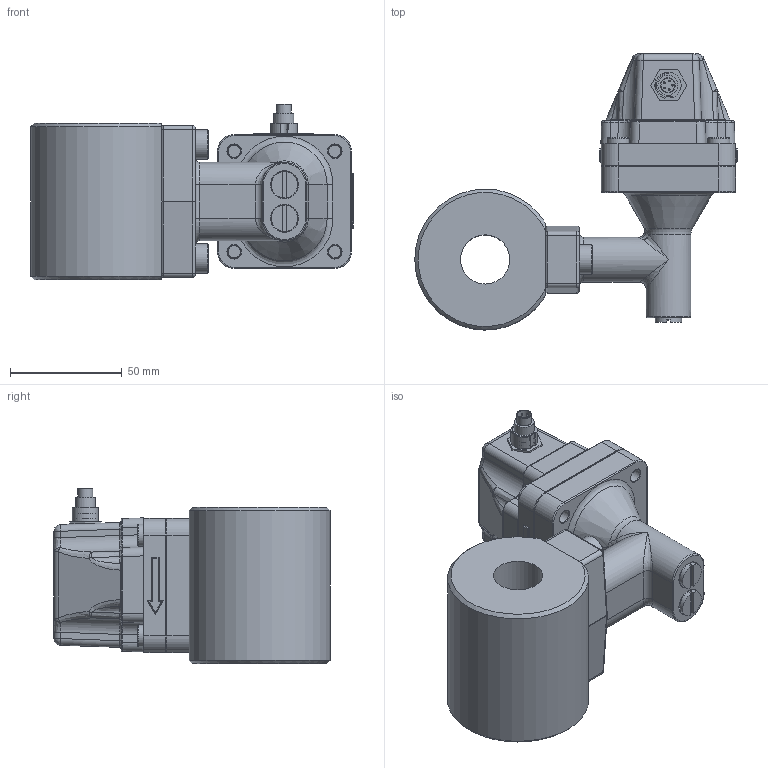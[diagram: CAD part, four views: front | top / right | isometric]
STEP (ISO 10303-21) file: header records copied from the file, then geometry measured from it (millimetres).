
FILE_DESCRIPTION(/* description */ ('Alibre Inc.'),/* implementation_level */ '2;1');
FILE_NAME(/* name */ 'export0',/* time_stamp */ '2012-11-14T15:42:26+01:00',/* author */ (''),/* organization */ (''),/* preprocessor_version */ 'ST-DEVELOPER v14',/* originating_system */ 'Alibre',/* authorisation */ '');
FILE_SCHEMA (('CONFIG_CONTROL_DESIGN'));
Length unit declared in the file: centimetre
Products named in the file (9): ID_1; ID_2; ID_3; ID_4; ID_5; ID_6; ID_7
Bounding box: 144.25 x 123.5 x 78.5 mm (x, y, z)
Volume: 355554.7 mm3; surface area: 88026 mm2
Topology: 13 solids, 14 shells, 843 faces, 1841 edges, 1062 vertices
Faces by surface type: plane 268, cylinder 261, bspline 132, cone 92, torus 52, sphere 38
Full cylindrical faces by diameter (mm): 0.75 x5, 3.198 x4, 6 x16, 6.2 x1, 6.4 x4, 6.7 x1, 8 x4, 8.5 x2, 8.7 x2, 8.9 x1, 9.6 x4, 10 x4, 11 x4, 11.75 x2, 12 x2, 13 x2, 14 x2, 17.2 x2, 21.1 x2, 22 x1, 32 x1, 47 x1
Entity records: 45184 total; most frequent: CARTESIAN_POINT 29422, ORIENTED_EDGE 2982, DIRECTION 2909, EDGE_CURVE 1491, AXIS2_PLACEMENT_3D 1307, VERTEX_POINT 913, EDGE_LOOP 892, FACE_BOUND 892
